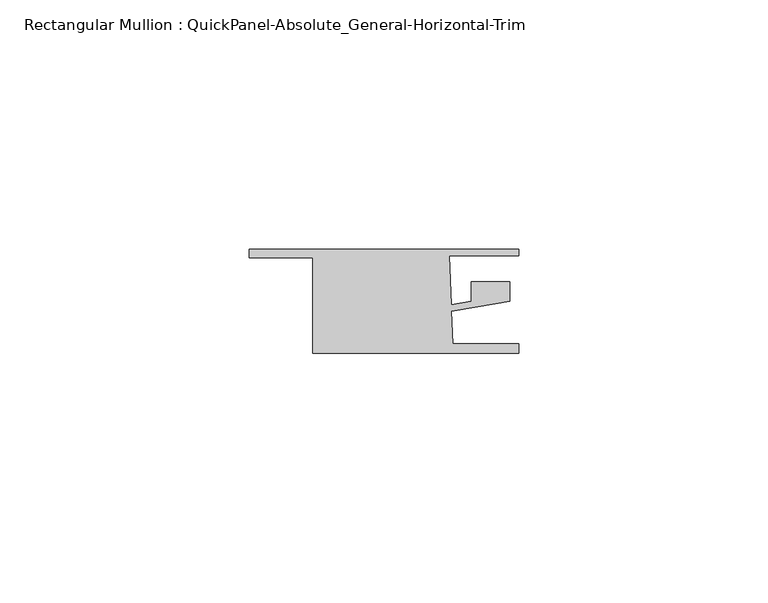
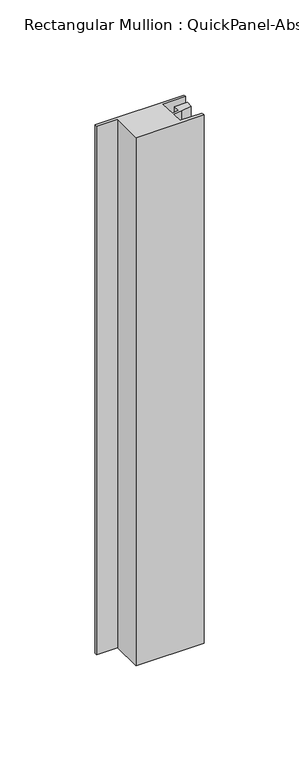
"""IFC4 building model written with IfcOpenShell, lengths in millimetres: member geometry, Rectangular Mullion : QuickPanel-Absolute_General-Horizontal-Trim."""

from ifc_helpers import new_model, si_unit, frame, origin, place, context, project, spatial, polyline, outline, extrude, source, transform, mapped, element, save


def rectangular_mullion_quickpanel_absolute_general_horizontal_3d351512(model_context):
    return source(origin(), model_context, "Body", "SweptSolid", [
        extrude(outline(polyline([(28.3897075, -8.6293878), (-12.9047811, -8.6293878), (-12.9047811, 10.4985348), (-25.5852925, 10.4985348), (-25.5852925, 12.1803727), (28.3897075, 12.1803727), (28.3897075, 10.9303752), (14.533354, 10.9303752), (14.8772811, 1.0815922), (18.86285, 1.7648465), (18.86285, 5.6493034), (26.6076231, 5.6493034), (26.6076231, 1.8040245), (20.1722905, 0.7008023), (14.9220096, -0.1992641), (15.1487948, -6.6935423), (28.3897075, -6.6935423), (28.3897075, -8.6293878)])), frame((0.0, 0.0, -338.388579), z_axis=(0.0, 0.0, 1.0), x_axis=(1.0, 0.0, 0.0)), (0.0, 0.0, 1.0), 338.388579),
    ])


if __name__ == "__main__":
    model = new_model("IFC4")
    model_context = context("Model", 3, world=origin())
    ifc_project = project(units=[si_unit("LENGTHUNIT", "METRE", prefix="MILLI")], contexts=[model_context])
    site = spatial("IfcSite", under=ifc_project)
    building = spatial("IfcBuilding", under=site)
    placement = place(None, origin())
    rectangular_mullion_quickpanel_absolute_general_horizontal_shape = rectangular_mullion_quickpanel_absolute_general_horizontal_3d351512(model_context)
    element("IfcMember", 1, ObjectType="Rectangular Mullion : QuickPanel-Absolute_General-Horizontal-Trim", at=placement, inside=building, context=model_context, shape_type="MappedRepresentation", body=[
        mapped(rectangular_mullion_quickpanel_absolute_general_horizontal_shape, transform((0.0, 0.0, 0.0), x_axis=(1.0, 0.0, 0.0), y_axis=(0.0, 1.0, 0.0), z_axis=(0.0, 0.0, 1.0))),
    ])
    save(model, "model.ifc")
